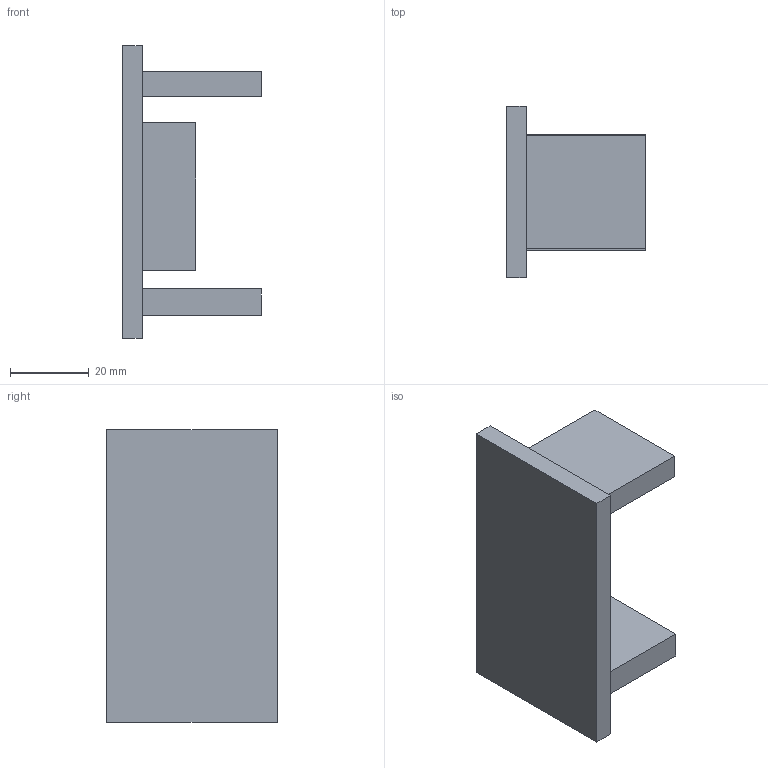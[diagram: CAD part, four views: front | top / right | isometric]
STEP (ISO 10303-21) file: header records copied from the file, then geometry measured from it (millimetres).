
FILE_DESCRIPTION(('STEP AP242 Edition 2','STEP AP242 Edition 2''CAx-IF Rec.Pracs.---Representation and Presentation of Product Manufacturing Information (PMI)---4.0---2014-10-13','STEP AP242 Edition 2''CAx-IF Rec.Pracs.---Representation and Presentation of Product Manufacturing Information (PMI)---4.0---2014-10-13''CAx-IF Rec.Pracs.---3D Tessellated Geometry---0.4---2014-09-14','STEP AP242 Edition 2''CAx-IF Rec.Pracs.---Representation and Presentation of Product Manufacturing Information (PMI)---4.0---2014-10-13''CAx-IF Rec.Pracs.---3D Tessellated Geometry---0.4---2014-09-14''2;1','STEP AP242 Edition 2''CAx-IF Rec.Pracs.---Representation and Presentation of Product Manufacturing Information (PMI)---4.0---2014-10-13''CAx-IF Rec.Pracs.---3D Tessellated Geometry---0.4---2014-09-14''2;1''CAx-IF Rec.Pracs.---User Defined Attributes---1.5---2016-08-15'),'2;1');
FILE_NAME('/vol/tmp/translate-4500610375692572013/Assembly 1 - Part 5.step','2026-02-26T04:21:29',(''),(''),'ST-DEVELOPER v20','ONSHAPE BY PTC INC, 1.211',' ');
FILE_SCHEMA(('AP242_MANAGED_MODEL_BASED_3D_ENGINEERING_MIM_LF { 1 0 10303 442 3 1 4 }'));
Length unit declared in the file: metre
Products named in the file (1): Part 5
Bounding box: 35.2 x 43.21 x 73.99 mm (x, y, z)
Volume: 34398 mm3; surface area: 13239 mm2
Topology: 1 solids, 1 shells, 21 faces, 48 edges, 32 vertices
Faces by surface type: plane 21
Entity records: 604 total; most frequent: CARTESIAN_POINT 102, ORIENTED_EDGE 96, DIRECTION 92, EDGE_CURVE 48, LINE 48, VECTOR 48, VERTEX_POINT 32, EDGE_LOOP 24
